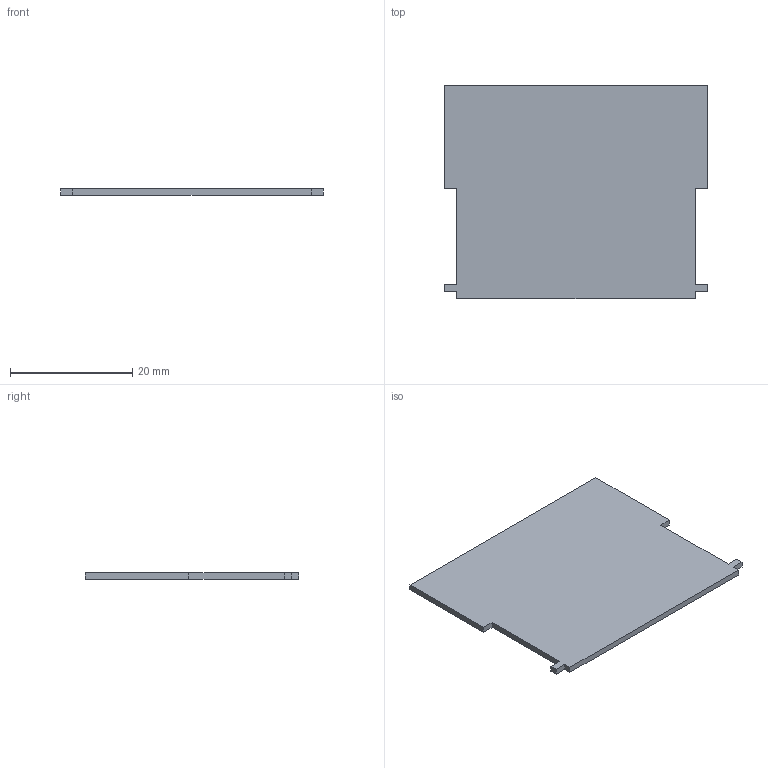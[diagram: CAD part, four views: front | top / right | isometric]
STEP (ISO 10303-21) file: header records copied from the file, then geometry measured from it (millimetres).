
FILE_DESCRIPTION(/* description */ (''),/* implementation_level */ '2;1');
FILE_NAME(/* name */ 'D:/3D Printer/Projects/Split-Flap/3D-Design/Flaps/Flap_blank.step',/* time_stamp */ '2022-02-22T00:25:40+01:00',/* author */ (''),/* organization */ (''),/* preprocessor_version */ 'ST-DEVELOPER v18.1',/* originating_system */ 'Autodesk Translation Framework v10.13.0.1454',/* authorisation */ '');
FILE_SCHEMA (('AUTOMOTIVE_DESIGN { 1 0 10303 214 3 1 1 }'));
Length unit declared in the file: millimetre
Products named in the file (1): NewFlaps
Bounding box: 43 x 35 x 1 mm (x, y, z)
Volume: 1437.8 mm3; surface area: 3039.6 mm2
Topology: 1 solids, 1 shells, 18 faces, 48 edges, 32 vertices
Faces by surface type: plane 18
Entity records: 574 total; most frequent: CARTESIAN_POINT 99, ORIENTED_EDGE 96, DIRECTION 86, LINE 48, VECTOR 48, EDGE_CURVE 48, VERTEX_POINT 32, AXIS2_PLACEMENT_3D 19
